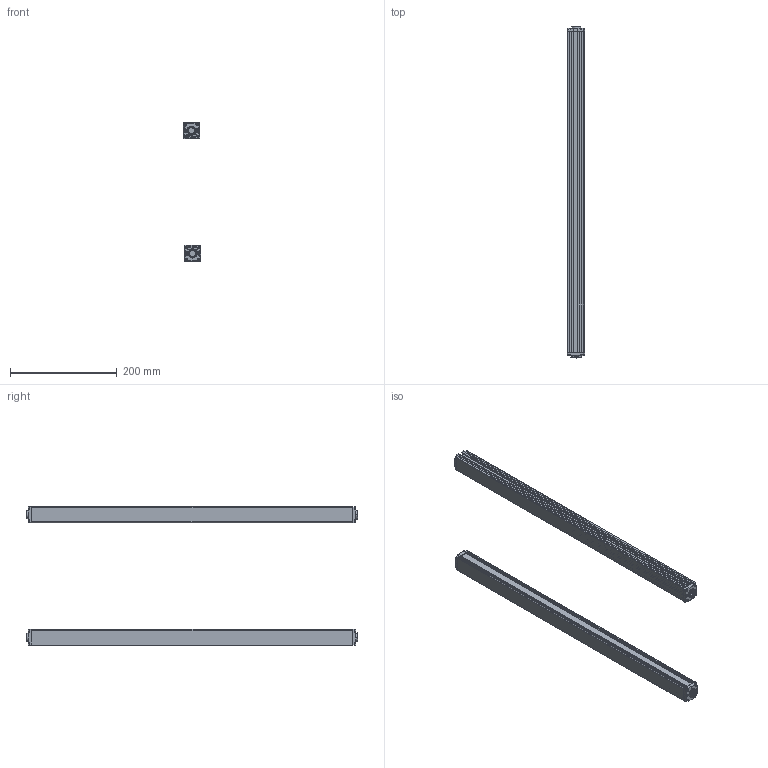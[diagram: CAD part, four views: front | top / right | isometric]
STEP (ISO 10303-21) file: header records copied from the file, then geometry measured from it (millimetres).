
FILE_DESCRIPTION (( 'STEP AP203' ), '1' );
FILE_NAME ('ZDA5810-600.STEP', '2022-08-30T03:55:13', ( 'Windows 蚚誧' ), ( 'Organization' ), 'SwSTEP 2.0', 'SolidWorks 2020', '' );
FILE_SCHEMA (( 'CONFIG_CONTROL_DESIGN' ));
Length unit declared in the file: millimetre
Products named in the file (5): 錨璃10; 錨璃1; ZDA5810-600; 錨璃8; 錨璃8 - 萵掛 (2)
Assembly tree (8 placements, depth 2):
  ZDA5810-600
    錨璃1  x2
    錨璃8  x2
    錨璃8 - 萵掛 (2)  x2
    錨璃10  x2
Bounding box: 32.36 x 621.4 x 260.35 mm (x, y, z)
Volume: 385451.7 mm3; surface area: 408998.2 mm2
Topology: 8 solids, 8 shells, 1032 faces, 2690 edges, 1668 vertices
Faces by surface type: plane 464, cylinder 310, cone 120, bspline 58, torus 48, sphere 32
Entity records: 17901 total; most frequent: CARTESIAN_POINT 4731, ORIENTED_EDGE 2666, DIRECTION 2616, EDGE_CURVE 1333, AXIS2_PLACEMENT_3D 894, VERTEX_POINT 834, LINE 828, VECTOR 828
